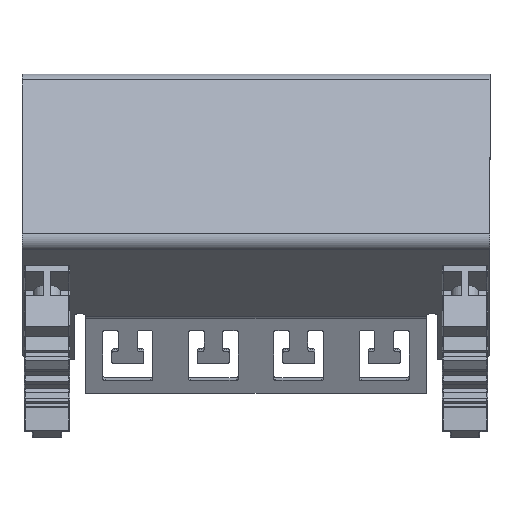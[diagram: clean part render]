
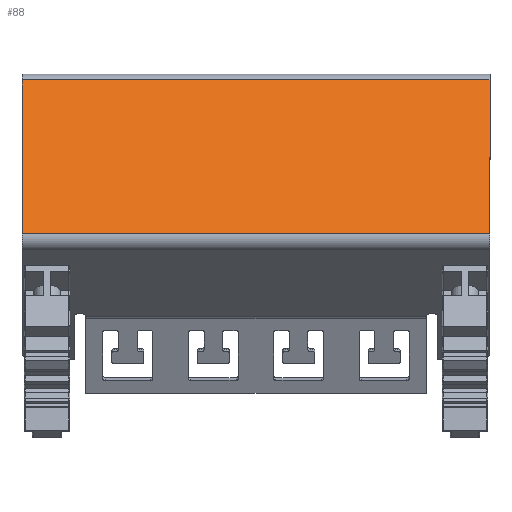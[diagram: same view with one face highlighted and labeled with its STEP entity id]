
A CAD part, front view. The second image highlights one B-rep face of the part: STEP entity #88.
In plain terms, the highlighted planar face has unit normal (0, -0.866, 0.5).
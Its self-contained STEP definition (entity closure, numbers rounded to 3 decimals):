
#88 = ADVANCED_FACE ( 'NONE', ( #9385 ), #3279, .F. ) ;
#201 = EDGE_CURVE ( 'NONE', #4231, #8441, #7675, .T. ) ;
#272 = CARTESIAN_POINT ( 'NONE',  ( -51.35, -18.9, 0.259 ) ) ;
#388 = DIRECTION ( 'NONE',  ( 0., 0.5, 0.866 ) ) ;
#519 = AXIS2_PLACEMENT_3D ( 'NONE', #4375, #1156, #11838 ) ;
#1094 = VERTEX_POINT ( 'NONE', #3500 ) ;
#1149 = ORIENTED_EDGE ( 'NONE', *, *, #2813, .T. ) ;
#1156 = DIRECTION ( 'NONE',  ( 0., 0.866, -0.5 ) ) ;
#1346 = CARTESIAN_POINT ( 'NONE',  ( -51.35, -38.352, -33.432 ) ) ;
#2728 = EDGE_CURVE ( 'NONE', #10626, #1094, #7450, .T. ) ;
#2813 = EDGE_CURVE ( 'NONE', #1094, #8441, #3989, .T. ) ;
#3279 = PLANE ( 'NONE',  #519 ) ;
#3309 = ORIENTED_EDGE ( 'NONE', *, *, #9585, .T. ) ;
#3435 = ORIENTED_EDGE ( 'NONE', *, *, #2728, .T. ) ;
#3500 = CARTESIAN_POINT ( 'NONE',  ( 51.35, -38.352, -33.432 ) ) ;
#3921 = DIRECTION ( 'NONE',  ( 0., -0.5, -0.866 ) ) ;
#3940 = CARTESIAN_POINT ( 'NONE',  ( -51.35, -38.352, -33.432 ) ) ;
#3989 = LINE ( 'NONE', #9958, #12811 ) ;
#4231 = VERTEX_POINT ( 'NONE', #272 ) ;
#4344 = CARTESIAN_POINT ( 'NONE',  ( 51.35, -18.9, 0.259 ) ) ;
#4375 = CARTESIAN_POINT ( 'NONE',  ( 51.35, -18.612, 0.759 ) ) ;
#4545 = VECTOR ( 'NONE', #4558, 1000. ) ;
#4558 = DIRECTION ( 'NONE',  ( 1., 0., 0. ) ) ;
#7289 = ORIENTED_EDGE ( 'NONE', *, *, #201, .F. ) ;
#7328 = LINE ( 'NONE', #12407, #12688 ) ;
#7450 = LINE ( 'NONE', #1346, #13154 ) ;
#7675 = LINE ( 'NONE', #8784, #4545 ) ;
#8441 = VERTEX_POINT ( 'NONE', #4344 ) ;
#8784 = CARTESIAN_POINT ( 'NONE',  ( 51.35, -18.9, 0.259 ) ) ;
#8787 = DIRECTION ( 'NONE',  ( 1., 0., 0. ) ) ;
#9385 = FACE_OUTER_BOUND ( 'NONE', #13699, .T. ) ;
#9585 = EDGE_CURVE ( 'NONE', #4231, #10626, #7328, .T. ) ;
#9958 = CARTESIAN_POINT ( 'NONE',  ( 51.35, -18.612, 0.759 ) ) ;
#10626 = VERTEX_POINT ( 'NONE', #3940 ) ;
#11838 = DIRECTION ( 'NONE',  ( 0., 0.5, 0.866 ) ) ;
#12407 = CARTESIAN_POINT ( 'NONE',  ( -51.35, -18.612, 0.759 ) ) ;
#12688 = VECTOR ( 'NONE', #3921, 1000. ) ;
#12811 = VECTOR ( 'NONE', #388, 1000. ) ;
#13154 = VECTOR ( 'NONE', #8787, 1000. ) ;
#13699 = EDGE_LOOP ( 'NONE', ( #3435, #1149, #7289, #3309 ) ) ;
